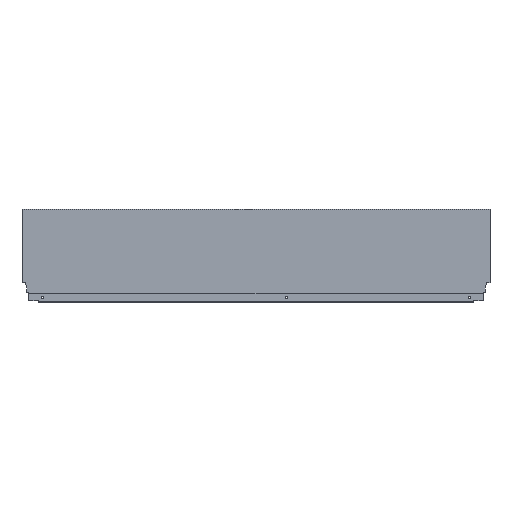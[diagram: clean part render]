
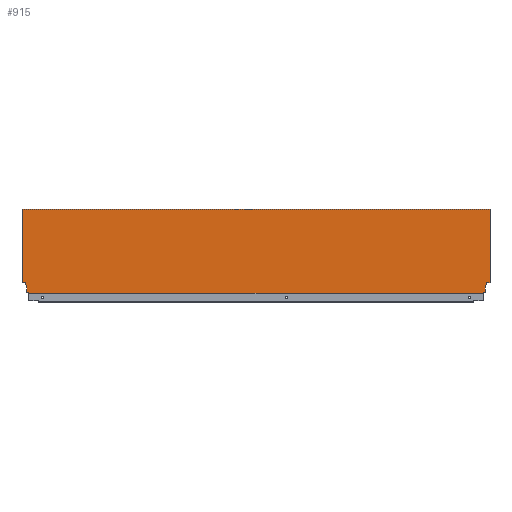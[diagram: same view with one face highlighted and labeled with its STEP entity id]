
A CAD part, top view. The second image highlights one B-rep face of the part: STEP entity #915.
In plain terms, the highlighted planar face has unit normal (0, 0, 1).
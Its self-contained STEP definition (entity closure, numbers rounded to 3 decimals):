
#20 = DIRECTION ( 'NONE',  ( 0., 1., 0. ) ) ;
#21 = CARTESIAN_POINT ( 'NONE',  ( -909.94, 21.2, 7.5 ) ) ;
#22 = DIRECTION ( 'NONE',  ( -0.174, 0.985, 0. ) ) ;
#23 = CARTESIAN_POINT ( 'NONE',  ( -922., 21.2, 7.5 ) ) ;
#25 = CARTESIAN_POINT ( 'NONE',  ( -908.1, 2.64, 7.5 ) ) ;
#26 = DIRECTION ( 'NONE',  ( -0.94, 0.342, 0. ) ) ;
#27 = CARTESIAN_POINT ( 'NONE',  ( -917., 0., 7.5 ) ) ;
#28 = DIRECTION ( 'NONE',  ( -1., 0., 0. ) ) ;
#29 = CARTESIAN_POINT ( 'NONE',  ( -8.9, 10.765, 7.5 ) ) ;
#30 = DIRECTION ( 'NONE',  ( 0., -1., 0. ) ) ;
#31 = CARTESIAN_POINT ( 'NONE',  ( -908.1, 10.765, 7.5 ) ) ;
#32 = DIRECTION ( 'NONE',  ( 0., 1., 0. ) ) ;
#33 = CARTESIAN_POINT ( 'NONE',  ( -13.004, 1.146, 7.5 ) ) ;
#34 = DIRECTION ( 'NONE',  ( 0., -1., 0. ) ) ;
#35 = CARTESIAN_POINT ( 'NONE',  ( -8.9, 2.64, 7.5 ) ) ;
#36 = DIRECTION ( 'NONE',  ( 0., -1., 0. ) ) ;
#37 = CARTESIAN_POINT ( 'NONE',  ( -7.06, 21.2, 7.5 ) ) ;
#38 = DIRECTION ( 'NONE',  ( -0.174, -0.985, 0. ) ) ;
#39 = CARTESIAN_POINT ( 'NONE',  ( 0., 21.2, 7.5 ) ) ;
#40 = DIRECTION ( 'NONE',  ( -0.94, -0.342, 0. ) ) ;
#41 = CARTESIAN_POINT ( 'NONE',  ( 0., 0., 7.5 ) ) ;
#42 = DIRECTION ( 'NONE',  ( -1., 0., 0. ) ) ;
#43 = DIRECTION ( 'NONE',  ( 0., -1., 0. ) ) ;
#45 = CARTESIAN_POINT ( 'NONE',  ( -917., 164.7, 7.5 ) ) ;
#46 = DIRECTION ( 'NONE',  ( 1., 0., 0. ) ) ;
#50 = CARTESIAN_POINT ( 'NONE',  ( -917., 0., 7.5 ) ) ;
#52 = DIRECTION ( 'NONE',  ( 1., 0., 0. ) ) ;
#97 = CARTESIAN_POINT ( 'NONE',  ( -903.996, 1.146, 7.5 ) ) ;
#394 = ORIENTED_EDGE ( 'NONE', *, *, #1430, .F. ) ;
#395 = ORIENTED_EDGE ( 'NONE', *, *, #1429, .T. ) ;
#396 = ORIENTED_EDGE ( 'NONE', *, *, #1438, .F. ) ;
#397 = ORIENTED_EDGE ( 'NONE', *, *, #1440, .F. ) ;
#398 = ORIENTED_EDGE ( 'NONE', *, *, #1437, .F. ) ;
#399 = ORIENTED_EDGE ( 'NONE', *, *, #1439, .F. ) ;
#400 = ORIENTED_EDGE ( 'NONE', *, *, #1441, .F. ) ;
#401 = ORIENTED_EDGE ( 'NONE', *, *, #1442, .F. ) ;
#402 = ORIENTED_EDGE ( 'NONE', *, *, #1443, .F. ) ;
#455 = ORIENTED_EDGE ( 'NONE', *, *, #1436, .F. ) ;
#456 = ORIENTED_EDGE ( 'NONE', *, *, #1433, .F. ) ;
#469 = ORIENTED_EDGE ( 'NONE', *, *, #1431, .F. ) ;
#490 = ORIENTED_EDGE ( 'NONE', *, *, #1435, .T. ) ;
#535 = ORIENTED_EDGE ( 'NONE', *, *, #1434, .F. ) ;
#631 = LINE ( 'NONE', #23, #648 ) ;
#634 = LINE ( 'NONE', #50, #636 ) ;
#636 = VECTOR ( 'NONE', #52, 1000. ) ;
#638 = LINE ( 'NONE', #97, #640 ) ;
#640 = VECTOR ( 'NONE', #20, 1000. ) ;
#641 = LINE ( 'NONE', #27, #650 ) ;
#642 = LINE ( 'NONE', #21, #643 ) ;
#643 = VECTOR ( 'NONE', #22, 1000. ) ;
#645 = LINE ( 'NONE', #29, #654 ) ;
#646 = LINE ( 'NONE', #25, #647 ) ;
#647 = VECTOR ( 'NONE', #26, 1000. ) ;
#648 = VECTOR ( 'NONE', #28, 1000. ) ;
#649 = LINE ( 'NONE', #33, #656 ) ;
#650 = VECTOR ( 'NONE', #30, 1000. ) ;
#651 = LINE ( 'NONE', #35, #660 ) ;
#652 = LINE ( 'NONE', #31, #653 ) ;
#653 = VECTOR ( 'NONE', #32, 1000. ) ;
#654 = VECTOR ( 'NONE', #34, 1000. ) ;
#655 = LINE ( 'NONE', #39, #662 ) ;
#656 = VECTOR ( 'NONE', #36, 1000. ) ;
#657 = LINE ( 'NONE', #41, #664 ) ;
#658 = LINE ( 'NONE', #37, #659 ) ;
#659 = VECTOR ( 'NONE', #38, 1000. ) ;
#660 = VECTOR ( 'NONE', #40, 1000. ) ;
#661 = LINE ( 'NONE', #45, #666 ) ;
#662 = VECTOR ( 'NONE', #42, 1000. ) ;
#664 = VECTOR ( 'NONE', #43, 1000. ) ;
#666 = VECTOR ( 'NONE', #46, 1000. ) ;
#854 = FACE_OUTER_BOUND ( 'NONE', #1539, .T. ) ;
#915 = ADVANCED_FACE ( 'NONE', ( #854 ), #1239, .T. ) ;
#966 = AXIS2_PLACEMENT_3D ( 'NONE', #1249, #1233, #1232 ) ;
#1001 = VERTEX_POINT ( 'NONE', #1151 ) ;
#1006 = VERTEX_POINT ( 'NONE', #1144 ) ;
#1014 = VERTEX_POINT ( 'NONE', #1148 ) ;
#1017 = VERTEX_POINT ( 'NONE', #1142 ) ;
#1025 = VERTEX_POINT ( 'NONE', #1140 ) ;
#1027 = VERTEX_POINT ( 'NONE', #1139 ) ;
#1030 = VERTEX_POINT ( 'NONE', #1138 ) ;
#1031 = VERTEX_POINT ( 'NONE', #1137 ) ;
#1041 = VERTEX_POINT ( 'NONE', #1134 ) ;
#1044 = VERTEX_POINT ( 'NONE', #1132 ) ;
#1066 = CARTESIAN_POINT ( 'NONE',  ( -8.9, 10.765, 7.5 ) ) ;
#1079 = CARTESIAN_POINT ( 'NONE',  ( -908.1, 2.64, 7.5 ) ) ;
#1080 = CARTESIAN_POINT ( 'NONE',  ( 0., 164.7, 7.5 ) ) ;
#1083 = CARTESIAN_POINT ( 'NONE',  ( -903.996, 1.146, 7.5 ) ) ;
#1132 = CARTESIAN_POINT ( 'NONE',  ( -917., 21.2, 7.5 ) ) ;
#1134 = CARTESIAN_POINT ( 'NONE',  ( -917., 164.7, 7.5 ) ) ;
#1137 = CARTESIAN_POINT ( 'NONE',  ( 0., 21.2, 7.5 ) ) ;
#1138 = CARTESIAN_POINT ( 'NONE',  ( -13.004, 1.146, 7.5 ) ) ;
#1139 = CARTESIAN_POINT ( 'NONE',  ( -7.06, 21.2, 7.5 ) ) ;
#1140 = CARTESIAN_POINT ( 'NONE',  ( -903.996, 0., 7.5 ) ) ;
#1142 = CARTESIAN_POINT ( 'NONE',  ( -909.94, 21.2, 7.5 ) ) ;
#1144 = CARTESIAN_POINT ( 'NONE',  ( -13.004, 0., 7.5 ) ) ;
#1148 = CARTESIAN_POINT ( 'NONE',  ( -908.1, 10.765, 7.5 ) ) ;
#1151 = CARTESIAN_POINT ( 'NONE',  ( -8.9, 2.64, 7.5 ) ) ;
#1232 = DIRECTION ( 'NONE',  ( 1., 0., 0. ) ) ;
#1233 = DIRECTION ( 'NONE',  ( 0., 0., 1. ) ) ;
#1239 = PLANE ( 'NONE',  #966 ) ;
#1249 = CARTESIAN_POINT ( 'NONE',  ( -917., 0., 7.5 ) ) ;
#1380 = VERTEX_POINT ( 'NONE', #1083 ) ;
#1383 = VERTEX_POINT ( 'NONE', #1080 ) ;
#1384 = VERTEX_POINT ( 'NONE', #1079 ) ;
#1399 = VERTEX_POINT ( 'NONE', #1066 ) ;
#1429 = EDGE_CURVE ( 'NONE', #1025, #1006, #634, .T. ) ;
#1430 = EDGE_CURVE ( 'NONE', #1025, #1380, #638, .T. ) ;
#1431 = EDGE_CURVE ( 'NONE', #1014, #1017, #642, .T. ) ;
#1433 = EDGE_CURVE ( 'NONE', #1380, #1384, #646, .T. ) ;
#1434 = EDGE_CURVE ( 'NONE', #1017, #1044, #631, .T. ) ;
#1435 = EDGE_CURVE ( 'NONE', #1041, #1044, #641, .T. ) ;
#1436 = EDGE_CURVE ( 'NONE', #1384, #1014, #652, .T. ) ;
#1437 = EDGE_CURVE ( 'NONE', #1399, #1001, #645, .T. ) ;
#1438 = EDGE_CURVE ( 'NONE', #1030, #1006, #649, .T. ) ;
#1439 = EDGE_CURVE ( 'NONE', #1027, #1399, #658, .T. ) ;
#1440 = EDGE_CURVE ( 'NONE', #1001, #1030, #651, .T. ) ;
#1441 = EDGE_CURVE ( 'NONE', #1031, #1027, #655, .T. ) ;
#1442 = EDGE_CURVE ( 'NONE', #1383, #1031, #657, .T. ) ;
#1443 = EDGE_CURVE ( 'NONE', #1041, #1383, #661, .T. ) ;
#1539 = EDGE_LOOP ( 'NONE', ( #490, #535, #469, #455, #456, #394, #395, #396, #397, #398, #399, #400, #401, #402 ) ) ;
